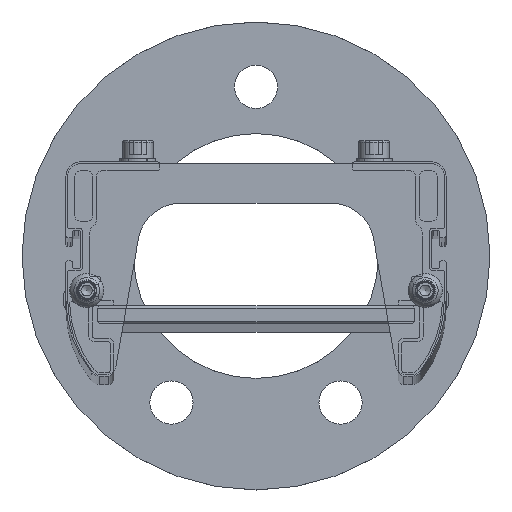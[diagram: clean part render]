
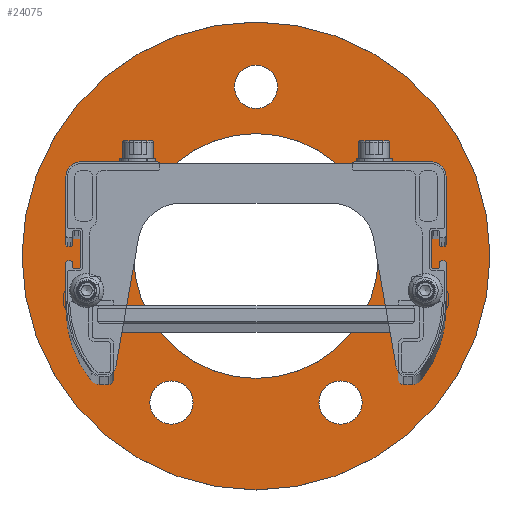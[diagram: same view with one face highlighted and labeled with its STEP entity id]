
A CAD part, top view. The second image highlights one B-rep face of the part: STEP entity #24075.
In plain terms, the highlighted planar face has unit normal (0, 0, 1).
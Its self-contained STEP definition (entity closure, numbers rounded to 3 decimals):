
#20971=PLANE('',#81276);
#24075=ADVANCED_FACE('',(#28759,#28760,#28761,#28762,#28763,#28764,#28765),
#20971,.T.);
#28759=FACE_BOUND('',#31787,.T.);
#28760=FACE_BOUND('',#31788,.T.);
#28761=FACE_BOUND('',#31789,.T.);
#28762=FACE_BOUND('',#31790,.T.);
#28763=FACE_BOUND('',#31791,.T.);
#28764=FACE_BOUND('',#31792,.T.);
#28765=FACE_BOUND('',#31793,.T.);
#31787=EDGE_LOOP('',(#43675));
#31788=EDGE_LOOP('',(#43676));
#31789=EDGE_LOOP('',(#43677));
#31790=EDGE_LOOP('',(#43678));
#31791=EDGE_LOOP('',(#43679));
#31792=EDGE_LOOP('',(#43680));
#31793=EDGE_LOOP('',(#43681));
#43675=ORIENTED_EDGE('',*,*,#67745,.F.);
#43676=ORIENTED_EDGE('',*,*,#67746,.F.);
#43677=ORIENTED_EDGE('',*,*,#67747,.F.);
#43678=ORIENTED_EDGE('',*,*,#67748,.T.);
#43679=ORIENTED_EDGE('',*,*,#67749,.T.);
#43680=ORIENTED_EDGE('',*,*,#67750,.T.);
#43681=ORIENTED_EDGE('',*,*,#67751,.F.);
#58962=VERTEX_POINT('',#132586);
#58963=VERTEX_POINT('',#132588);
#58964=VERTEX_POINT('',#132590);
#58965=VERTEX_POINT('',#132592);
#58966=VERTEX_POINT('',#132594);
#58967=VERTEX_POINT('',#132596);
#58968=VERTEX_POINT('',#132598);
#67745=EDGE_CURVE('',#58962,#58962,#75671,.T.);
#67746=EDGE_CURVE('',#58963,#58963,#75672,.T.);
#67747=EDGE_CURVE('',#58964,#58964,#75673,.T.);
#67748=EDGE_CURVE('',#58965,#58965,#75674,.T.);
#67749=EDGE_CURVE('',#58966,#58966,#75675,.T.);
#67750=EDGE_CURVE('',#58967,#58967,#75676,.T.);
#67751=EDGE_CURVE('',#58968,#58968,#75677,.T.);
#75671=CIRCLE('',#81269,6.);
#75672=CIRCLE('',#81270,6.);
#75673=CIRCLE('',#81271,6.);
#75674=CIRCLE('',#81272,34.);
#75675=CIRCLE('',#81273,3.6);
#75676=CIRCLE('',#81274,3.6);
#75677=CIRCLE('',#81275,65.);
#81269=AXIS2_PLACEMENT_3D('',#132585,#96470,#96471);
#81270=AXIS2_PLACEMENT_3D('',#132587,#96472,#96473);
#81271=AXIS2_PLACEMENT_3D('',#132589,#96474,#96475);
#81272=AXIS2_PLACEMENT_3D('',#132591,#96476,#96477);
#81273=AXIS2_PLACEMENT_3D('',#132593,#96478,#96479);
#81274=AXIS2_PLACEMENT_3D('',#132595,#96480,#96481);
#81275=AXIS2_PLACEMENT_3D('',#132597,#96482,#96483);
#81276=AXIS2_PLACEMENT_3D('',#132599,#96484,#96485);
#96470=DIRECTION('',(0.,0.,1.));
#96471=DIRECTION('',(-1.,0.,0.));
#96472=DIRECTION('',(0.,0.,1.));
#96473=DIRECTION('',(-1.,0.,0.));
#96474=DIRECTION('',(0.,0.,1.));
#96475=DIRECTION('',(-1.,0.,0.));
#96476=DIRECTION('',(0.,0.,-1.));
#96477=DIRECTION('',(-1.,0.,0.));
#96478=DIRECTION('',(0.,0.,-1.));
#96479=DIRECTION('',(1.,0.,0.));
#96480=DIRECTION('',(0.,0.,-1.));
#96481=DIRECTION('',(1.,0.,0.));
#96482=DIRECTION('',(0.,0.,-1.));
#96483=DIRECTION('',(-1.,0.,0.));
#96484=DIRECTION('',(0.,0.,1.));
#96485=DIRECTION('',(-1.,0.,0.));
#132585=CARTESIAN_POINT('',(293.846,-100.913,-285.));
#132586=CARTESIAN_POINT('',(287.846,-100.913,-285.));
#132587=CARTESIAN_POINT('',(317.346,-13.21,-285.));
#132588=CARTESIAN_POINT('',(311.346,-13.21,-285.));
#132589=CARTESIAN_POINT('',(340.846,-100.913,-285.));
#132590=CARTESIAN_POINT('',(334.846,-100.913,-285.));
#132591=CARTESIAN_POINT('',(317.346,-60.21,-285.));
#132592=CARTESIAN_POINT('',(283.346,-60.21,-285.));
#132593=CARTESIAN_POINT('',(364.346,-72.21,-285.));
#132594=CARTESIAN_POINT('',(367.946,-72.21,-285.));
#132595=CARTESIAN_POINT('',(270.346,-72.21,-285.));
#132596=CARTESIAN_POINT('',(273.946,-72.21,-285.));
#132597=CARTESIAN_POINT('',(317.346,-60.21,-285.));
#132598=CARTESIAN_POINT('',(252.346,-60.21,-285.));
#132599=CARTESIAN_POINT('',(252.346,-60.21,-285.));
